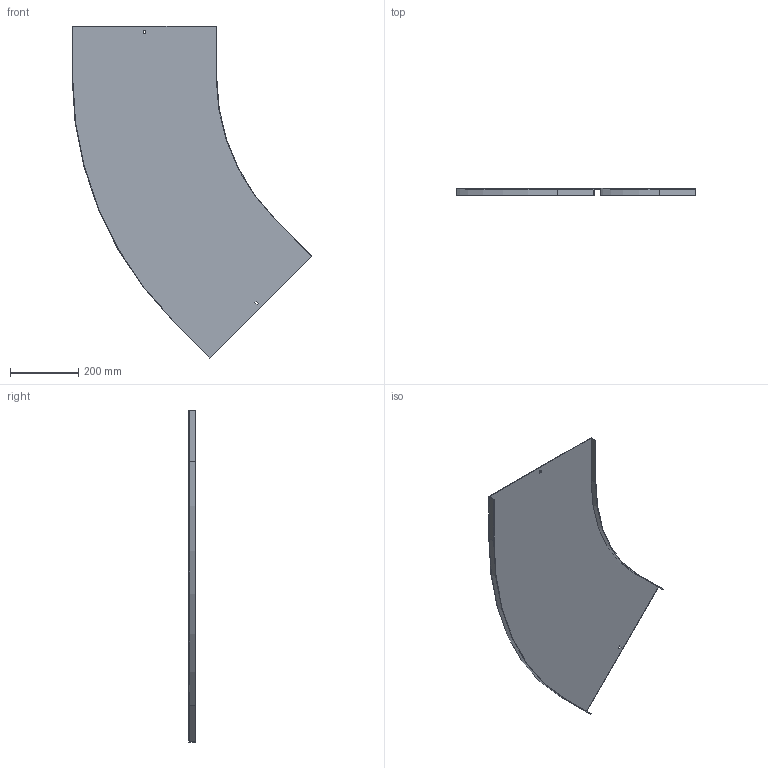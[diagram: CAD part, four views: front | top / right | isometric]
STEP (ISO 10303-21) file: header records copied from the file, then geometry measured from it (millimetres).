
FILE_DESCRIPTION (( 'STEP AP214' ), '1' );
FILE_NAME ('11N6P400.step', '2025-02-21T13:35:33', ( '' ), ( '' ), 'SwSTEP 2.0', 'SolidWorks 2023', '' );
FILE_SCHEMA (( 'AUTOMOTIVE_DESIGN' ));
Length unit declared in the file: millimetre
Products named in the file (1): 11N6P400
Bounding box: 701.43 x 20 x 971.3 mm (x, y, z)
Volume: 640364.3 mm3; surface area: 858077 mm2
Topology: 1 solids, 1 shells, 26 faces, 72 edges, 48 vertices
Faces by surface type: plane 22, cylinder 4
Entity records: 855 total; most frequent: CARTESIAN_POINT 147, ORIENTED_EDGE 144, DIRECTION 134, EDGE_CURVE 72, LINE 64, VECTOR 64, VERTEX_POINT 48, AXIS2_PLACEMENT_3D 35
